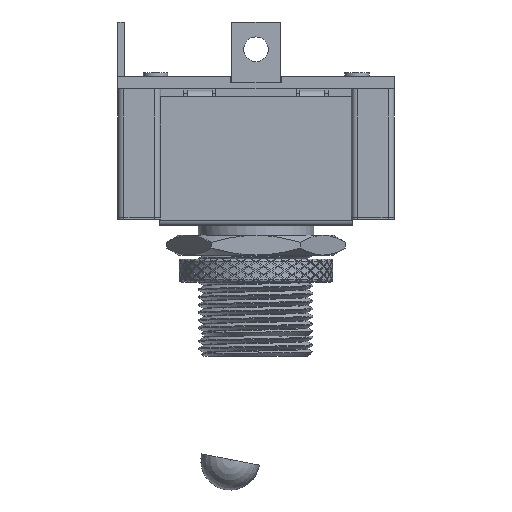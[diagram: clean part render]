
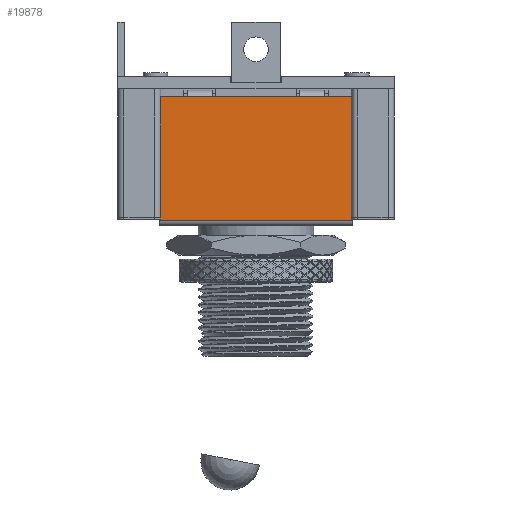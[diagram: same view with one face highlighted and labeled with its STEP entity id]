
A CAD part, left-side view. The second image highlights one B-rep face of the part: STEP entity #19878.
In plain terms, the highlighted planar face has unit normal (-1, 0, 0).
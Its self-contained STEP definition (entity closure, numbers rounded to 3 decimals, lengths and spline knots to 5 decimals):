
#1982=PLANE('',#21228);
#2888=FACE_OUTER_BOUND('',#4088,.T.);
#4088=EDGE_LOOP('',(#13327,#13328,#13329,#13330));
#5397=LINE('',#31016,#6453);
#5402=LINE('',#31028,#6458);
#5418=LINE('',#31064,#6474);
#5419=LINE('',#31065,#6475);
#6453=VECTOR('',#24158,0.3937);
#6458=VECTOR('',#24169,0.3937);
#6474=VECTOR('',#24201,0.3937);
#6475=VECTOR('',#24202,0.3937);
#7945=VERTEX_POINT('',#31013);
#7946=VERTEX_POINT('',#31015);
#7950=VERTEX_POINT('',#31027);
#7962=VERTEX_POINT('',#31063);
#10072=EDGE_CURVE('',#7945,#7946,#5397,.T.);
#10078=EDGE_CURVE('',#7946,#7950,#5402,.T.);
#10096=EDGE_CURVE('',#7962,#7945,#5418,.T.);
#10097=EDGE_CURVE('',#7950,#7962,#5419,.T.);
#13327=ORIENTED_EDGE('',*,*,#10072,.F.);
#13328=ORIENTED_EDGE('',*,*,#10096,.F.);
#13329=ORIENTED_EDGE('',*,*,#10097,.F.);
#13330=ORIENTED_EDGE('',*,*,#10078,.F.);
#19878=ADVANCED_FACE('',(#2888),#1982,.T.);
#21228=AXIS2_PLACEMENT_3D('',#31062,#24199,#24200);
#24158=DIRECTION('',(0.,-1.,0.));
#24169=DIRECTION('',(0.,0.,-1.));
#24199=DIRECTION('center_axis',(-1.,0.,0.));
#24200=DIRECTION('ref_axis',(0.,0.,1.));
#24201=DIRECTION('',(0.,0.,1.));
#24202=DIRECTION('',(0.,1.,0.));
#31013=CARTESIAN_POINT('',(0.,0.789,-0.02));
#31015=CARTESIAN_POINT('',(0.,0.,-0.02));
#31016=CARTESIAN_POINT('',(0.,0.,-0.02));
#31027=CARTESIAN_POINT('',(0.,0.,-0.524));
#31028=CARTESIAN_POINT('',(0.,0.,0.));
#31062=CARTESIAN_POINT('Origin',(0.,0.,-0.524));
#31063=CARTESIAN_POINT('',(0.,0.789,-0.524));
#31064=CARTESIAN_POINT('',(0.,0.789,0.));
#31065=CARTESIAN_POINT('',(0.,0.,-0.524));
